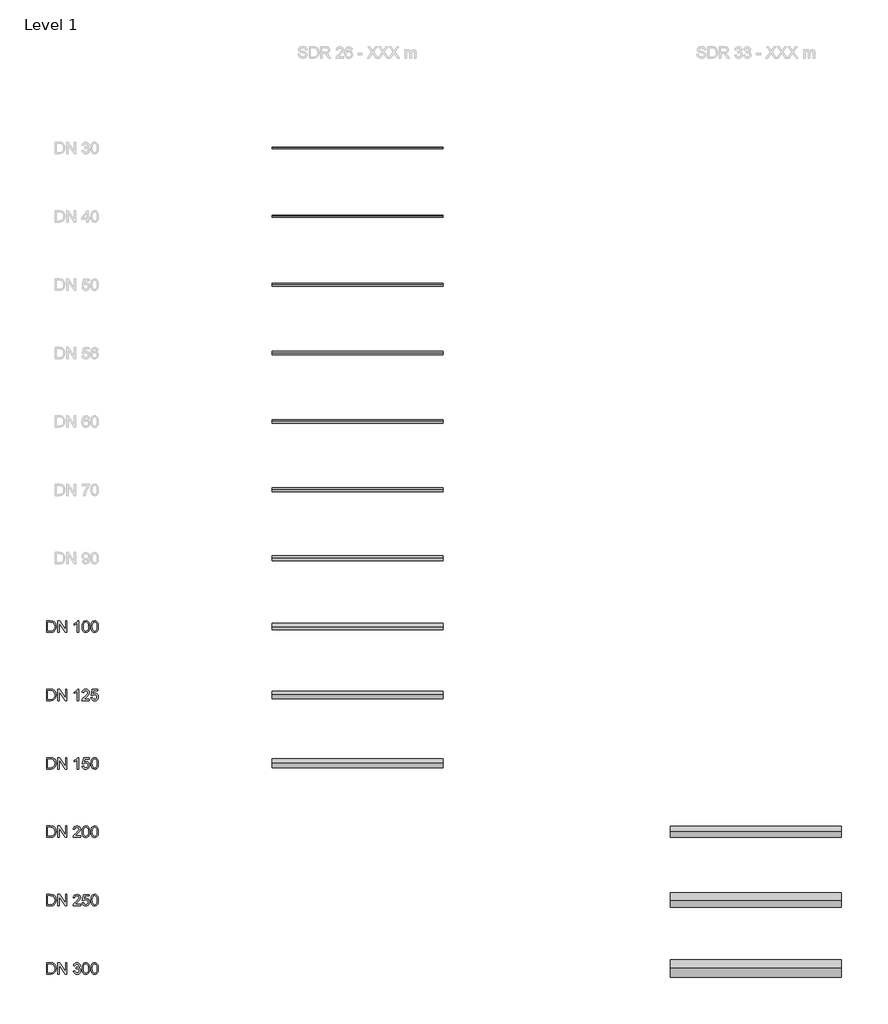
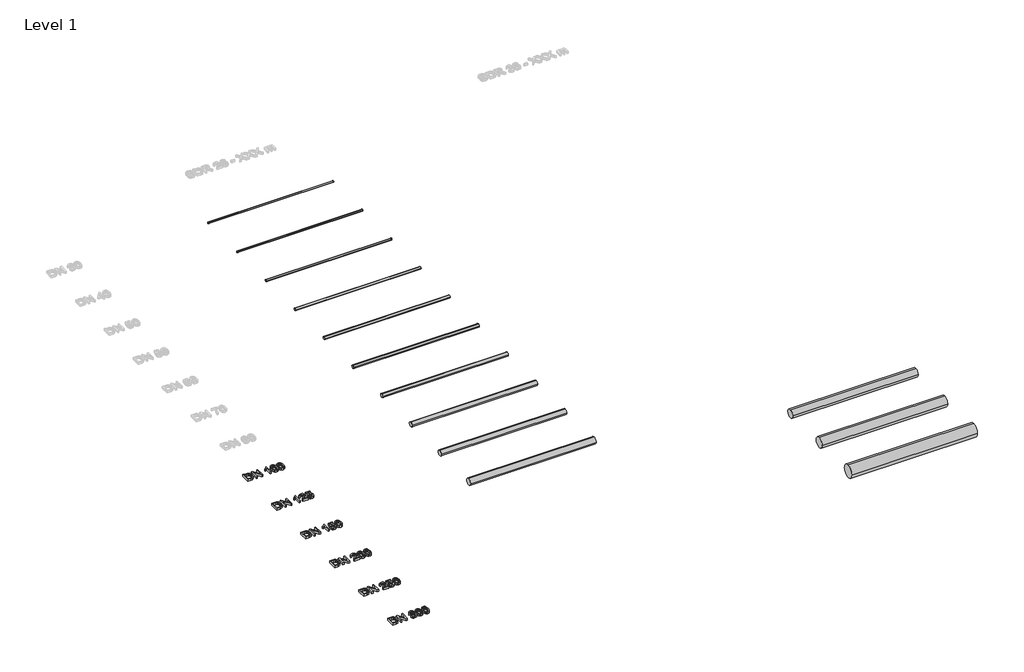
# One storey, part 1 of 4: 13 pipe segments, 6 proxies.
"""IFC4 building model written with IfcOpenShell, lengths in millimetres."""

from ifc_helpers import new_model, si_unit, point, frame, frame_2d, origin, origin_with_axes, place, context, project, spatial, polyline, circle_curve, trimmed, segment, composite_curve, outline, extrude, element, save

model = new_model("IFC4")

# Units and contexts
model_context = context("Model", 3, world=origin())
ifc_project = project(units=[si_unit("LENGTHUNIT", "METRE", prefix="MILLI")], contexts=[model_context])

# Site, building, storey
site = spatial("IfcSite", under=ifc_project)
building = spatial("IfcBuilding", under=site)
storey = spatial("IfcBuildingStorey", under=building, Name="Level 1", Elevation=0.0)

# Proxies
placement = place(None, origin())
element("IfcBuildingElementProxy", 1, Name="200mm Arial", ObjectType="200mm Arial", at=placement, inside=storey, context=model_context, shape_type="SweptSolid", body=[
    extrude(outline(polyline([(-19491.3116028, -7913.949573), (-19491.3116028, -7713.0369527), (-19422.0026349, -7713.0369527), (-19386.1464031, -7715.9309577), (-19370.1312736, -7721.5105013), (-19356.6177416, -7730.302881), (-19342.724065, -7745.606772), (-19332.8280393, -7764.6385338), (-19326.9051392, -7787.0302846), (-19324.9308391, -7812.4141423), (-19330.2773908, -7852.9547382), (-19344.0116519, -7882.2136195), (-19362.3567008, -7900.436041), (-19386.3671323, -7910.5160077), (-19418.6671715, -7913.949573), (-19491.3116028, -7913.949573)]), holes=[polyline([(-19466.1975253, -7888.8354954), (-19421.7573803, -7888.8354954), (-19389.4328156, -7885.2057264), (-19370.7934612, -7874.9540815), (-19362.0685265, -7864.0831685), (-19355.5140957, -7850.0116822), (-19351.4122114, -7832.6783089), (-19350.0449167, -7812.0217348), (-19352.7243239, -7784.6513144), (-19360.7625455, -7764.4423301), (-19372.6390025, -7750.5609162), (-19386.8331162, -7742.1732067), (-19422.4440933, -7738.1510302), (-19466.1975253, -7738.1510302), (-19466.1975253, -7888.8354954)])]), origin_with_axes(), (0.0, 0.0, 1.0), 50.0),
    extrude(outline(polyline([(-19290.3989825, -7913.949573), (-19290.3989825, -7713.0369527), (-19263.5190714, -7713.0369527), (-19158.5500754, -7872.2072292), (-19158.5500754, -7713.0369527), (-19133.4359979, -7713.0369527), (-19133.4359979, -7913.949573), (-19160.315909, -7913.949573), (-19265.284905, -7754.7302454), (-19265.284905, -7913.949573), (-19290.3989825, -7913.949573)])), origin_with_axes(), (0.0, 0.0, 1.0), 50.0),
    extrude(outline(polyline([(-18926.2448582, -7913.949573), (-18951.3589358, -7913.949573), (-18951.3589358, -7757.3789958), (-18975.1486381, -7774.3260931), (-19001.5870908, -7787.0057592), (-19001.5870908, -7763.2651077), (-18964.7743658, -7739.769711), (-18951.3037535, -7726.1948653), (-18942.431666, -7713.0369527), (-18926.2448582, -7713.0369527), (-18926.2448582, -7913.949573)])), origin_with_axes(), (0.0, 0.0, 1.0), 50.0),
    extrude(outline(polyline([(-18866.5989241, -7815.1119436), (-18864.7533827, -7782.9529258), (-18859.2167587, -7757.3054194), (-18850.0442343, -7737.7770168), (-18837.2909918, -7723.9753106), (-18820.8650607, -7715.7715422), (-18800.6744705, -7713.0369527), (-18785.1989013, -7714.6556334), (-18771.3420128, -7719.5116758), (-18759.7537299, -7727.4150073), (-18751.0839776, -7738.1755557), (-18739.3117537, -7767.9004209), (-18734.750017, -7815.1119436), (-18736.5771642, -7847.0870203), (-18742.058606, -7872.6732131), (-18751.1759481, -7892.2200098), (-18763.9107965, -7906.0768983), (-18780.3735158, -7914.335849), (-18800.6744705, -7917.0888326), (-18826.7695667, -7912.3063667), (-18846.5861435, -7897.9589689), (-18855.341735, -7882.8298218), (-18861.5957289, -7863.9789353), (-18866.5989241, -7815.1119436)]), holes=[polyline([(-18841.4848465, -7815.0628927), (-18838.5417906, -7854.5672876), (-18829.7126227, -7877.4311536), (-18816.5669727, -7888.3388547), (-18800.6744705, -7891.9747551), (-18784.7819683, -7888.326592), (-18771.6363184, -7877.3821026), (-18762.8071505, -7854.5059739), (-18759.8640945, -7815.0628927), (-18762.7090486, -7776.4475459), (-18771.2439109, -7753.4058703), (-18784.3650354, -7741.9647402), (-18800.9687761, -7738.1510302), (-18816.6896001, -7741.5110191), (-18829.3202152, -7751.5909857), (-18838.4436887, -7776.0674012), (-18841.4848465, -7815.0628927)])]), origin_with_axes(), (0.0, 0.0, 1.0), 50.0),
    extrude(outline(polyline([(-18712.7751992, -7815.1119436), (-18710.9296578, -7782.9529258), (-18705.3930338, -7757.3054194), (-18696.2205094, -7737.7770168), (-18683.4672669, -7723.9753106), (-18667.0413358, -7715.7715422), (-18646.8507456, -7713.0369527), (-18631.3751764, -7714.6556334), (-18617.5182879, -7719.5116758), (-18605.930005, -7727.4150073), (-18597.2602527, -7738.1755557), (-18585.4880288, -7767.9004209), (-18580.9262921, -7815.1119436), (-18582.7534393, -7847.0870203), (-18588.2348811, -7872.6732131), (-18597.3522232, -7892.2200098), (-18610.0870716, -7906.0768983), (-18626.5497909, -7914.335849), (-18646.8507456, -7917.0888326), (-18672.9458418, -7912.3063667), (-18692.7624186, -7897.9589689), (-18701.5180101, -7882.8298218), (-18707.772004, -7863.9789353), (-18712.7751992, -7815.1119436)]), holes=[polyline([(-18687.6611216, -7815.0628927), (-18684.7180657, -7854.5672876), (-18675.8888978, -7877.4311536), (-18662.7432478, -7888.3388547), (-18646.8507456, -7891.9747551), (-18630.9582434, -7888.326592), (-18617.8125935, -7877.3821026), (-18608.9834256, -7854.5059739), (-18606.0403696, -7815.0628927), (-18608.8853237, -7776.4475459), (-18617.420186, -7753.4058703), (-18630.5413105, -7741.9647402), (-18647.1450512, -7738.1510302), (-18662.8658751, -7741.5110191), (-18675.4964903, -7751.5909857), (-18684.6199638, -7776.0674012), (-18687.6611216, -7815.0628927)])]), origin_with_axes(), (0.0, 0.0, 1.0), 50.0),
])
element("IfcBuildingElementProxy", 2, Name="200mm Arial", ObjectType="200mm Arial", at=placement, inside=storey, context=model_context, shape_type="SweptSolid", body=[
    extrude(outline(polyline([(-19491.3116028, -9113.949573), (-19491.3116028, -8913.0369527), (-19422.0026349, -8913.0369527), (-19386.1464031, -8915.9309577), (-19370.1312736, -8921.5105013), (-19356.6177416, -8930.302881), (-19342.724065, -8945.606772), (-19332.8280393, -8964.6385338), (-19326.9051392, -8987.0302846), (-19324.9308391, -9012.4141423), (-19330.2773908, -9052.9547382), (-19344.0116519, -9082.2136195), (-19362.3567008, -9100.436041), (-19386.3671323, -9110.5160077), (-19418.6671715, -9113.949573), (-19491.3116028, -9113.949573)]), holes=[polyline([(-19466.1975253, -9088.8354954), (-19421.7573803, -9088.8354954), (-19389.4328156, -9085.2057264), (-19370.7934612, -9074.9540815), (-19362.0685265, -9064.0831685), (-19355.5140957, -9050.0116822), (-19351.4122114, -9032.6783089), (-19350.0449167, -9012.0217348), (-19352.7243239, -8984.6513144), (-19360.7625455, -8964.4423301), (-19372.6390025, -8950.5609162), (-19386.8331162, -8942.1732067), (-19422.4440933, -8938.1510302), (-19466.1975253, -8938.1510302), (-19466.1975253, -9088.8354954)])]), origin_with_axes(), (0.0, 0.0, 1.0), 50.0),
    extrude(outline(polyline([(-19290.3989825, -9113.949573), (-19290.3989825, -8913.0369527), (-19263.5190714, -8913.0369527), (-19158.5500754, -9072.2072292), (-19158.5500754, -8913.0369527), (-19133.4359979, -8913.0369527), (-19133.4359979, -9113.949573), (-19160.315909, -9113.949573), (-19265.284905, -8954.7302454), (-19265.284905, -9113.949573), (-19290.3989825, -9113.949573)])), origin_with_axes(), (0.0, 0.0, 1.0), 50.0),
    extrude(outline(polyline([(-18926.2448582, -9113.949573), (-18951.3589358, -9113.949573), (-18951.3589358, -8957.3789958), (-18975.1486381, -8974.3260931), (-19001.5870908, -8987.0057592), (-19001.5870908, -8963.2651077), (-18964.7743658, -8939.769711), (-18951.3037535, -8926.1948653), (-18942.431666, -8913.0369527), (-18926.2448582, -8913.0369527), (-18926.2448582, -9113.949573)])), origin_with_axes(), (0.0, 0.0, 1.0), 50.0),
    extrude(outline(polyline([(-18737.8892767, -9088.8354954), (-18737.8892767, -9113.949573), (-18869.7381838, -9113.949573), (-18867.0403825, -9096.6345937), (-18851.7855424, -9069.9754118), (-18820.3438945, -9040.8636832), (-18776.98287, -8999.0232377), (-18768.852678, -8984.6022634), (-18766.1426139, -8970.5736967), (-18768.6993938, -8957.9982638), (-18776.3697334, -8947.5442838), (-18788.1603513, -8940.4993436), (-18803.0779662, -8938.1510302), (-18818.7436079, -8940.4441613), (-18830.9143705, -8947.3235546), (-18838.7686511, -8958.2496499), (-18841.4848465, -8972.6828868), (-18866.5989241, -8969.5436271), (-18860.510477, -8945.2511527), (-18847.346433, -8927.5069778), (-18827.7935049, -8916.6544589), (-18802.538406, -8913.0369527), (-18777.099366, -8917.0591291), (-18757.5832262, -8929.1256586), (-18745.1672088, -8947.1518763), (-18741.0285364, -8969.0531178), (-18745.4921713, -8992.8673456), (-18760.3300784, -9017.4909138), (-18796.3089375, -9051.9001431), (-18825.1999369, -9076.0577275), (-18836.5307023, -9088.8354954), (-18737.8892767, -9088.8354954)])), origin_with_axes(), (0.0, 0.0, 1.0), 50.0),
    extrude(outline(polyline([(-18712.7751992, -9060.5821582), (-18687.6611216, -9057.4428985), (-18683.0503339, -9072.5199289), (-18675.005981, -9083.3172655), (-18663.5648509, -9089.8103827), (-18648.763732, -9091.9747551), (-18630.7620397, -9088.9642541), (-18617.2730332, -9079.9327511), (-18608.8485355, -9065.9225785), (-18606.0403696, -9047.9760685), (-18608.6707259, -9031.0780222), (-18616.5617947, -9018.1531014), (-18629.7748897, -9009.9493329), (-18648.3713245, -9007.2147434), (-18670.4197188, -9011.5802764), (-18684.5218619, -9022.9110419), (-18709.6359395, -9019.7717822), (-18687.6611216, -8916.1762123), (-18590.3440712, -8916.1762123), (-18590.3440712, -8941.2902899), (-18667.3540355, -8941.2902899), (-18678.0961897, -8996.619742), (-18660.1558111, -8985.7304349), (-18641.3570412, -8982.1006659), (-18617.8923012, -8986.601089), (-18598.4129496, -9000.1023582), (-18585.2979565, -9020.6792244), (-18580.9262921, -9046.4064386), (-18584.8626294, -9071.5205162), (-18596.6716415, -9093.0048247), (-18607.1072274, -9103.5415782), (-18619.2841214, -9111.0678307), (-18633.2023236, -9115.5835821), (-18648.8618339, -9117.0888326), (-18673.5283216, -9113.2199403), (-18693.1793515, -9101.6132634), (-18706.6499639, -9083.6177025), (-18712.7751992, -9060.5821582)])), origin_with_axes(), (0.0, 0.0, 1.0), 50.0),
])
element("IfcBuildingElementProxy", 3, Name="200mm Arial", ObjectType="200mm Arial", at=placement, inside=storey, context=model_context, shape_type="SweptSolid", body=[
    extrude(outline(polyline([(-19491.3116028, -10313.949573), (-19491.3116028, -10113.0369527), (-19422.0026349, -10113.0369527), (-19386.1464031, -10115.9309577), (-19370.1312736, -10121.5105013), (-19356.6177416, -10130.302881), (-19342.724065, -10145.606772), (-19332.8280393, -10164.6385338), (-19326.9051392, -10187.0302846), (-19324.9308391, -10212.4141423), (-19330.2773908, -10252.9547382), (-19344.0116519, -10282.2136195), (-19362.3567008, -10300.436041), (-19386.3671323, -10310.5160077), (-19418.6671715, -10313.949573), (-19491.3116028, -10313.949573)]), holes=[polyline([(-19466.1975253, -10288.8354954), (-19421.7573803, -10288.8354954), (-19389.4328156, -10285.2057264), (-19370.7934612, -10274.9540815), (-19362.0685265, -10264.0831685), (-19355.5140957, -10250.0116822), (-19351.4122114, -10232.6783089), (-19350.0449167, -10212.0217348), (-19352.7243239, -10184.6513144), (-19360.7625455, -10164.4423301), (-19372.6390025, -10150.5609162), (-19386.8331162, -10142.1732067), (-19422.4440933, -10138.1510302), (-19466.1975253, -10138.1510302), (-19466.1975253, -10288.8354954)])]), origin_with_axes(), (0.0, 0.0, 1.0), 50.0),
    extrude(outline(polyline([(-19290.3989825, -10313.949573), (-19290.3989825, -10113.0369527), (-19263.5190714, -10113.0369527), (-19158.5500754, -10272.2072292), (-19158.5500754, -10113.0369527), (-19133.4359979, -10113.0369527), (-19133.4359979, -10313.949573), (-19160.315909, -10313.949573), (-19265.284905, -10154.7302454), (-19265.284905, -10313.949573), (-19290.3989825, -10313.949573)])), origin_with_axes(), (0.0, 0.0, 1.0), 50.0),
    extrude(outline(polyline([(-18926.2448582, -10313.949573), (-18951.3589358, -10313.949573), (-18951.3589358, -10157.3789958), (-18975.1486381, -10174.3260931), (-19001.5870908, -10187.0057592), (-19001.5870908, -10163.2651077), (-18964.7743658, -10139.769711), (-18951.3037535, -10126.1948653), (-18942.431666, -10113.0369527), (-18926.2448582, -10113.0369527), (-18926.2448582, -10313.949573)])), origin_with_axes(), (0.0, 0.0, 1.0), 50.0),
    extrude(outline(polyline([(-18866.5989241, -10260.5821582), (-18841.4848465, -10257.4428985), (-18836.8740589, -10272.5199289), (-18828.8297059, -10283.3172655), (-18817.3885758, -10289.8103827), (-18802.5874569, -10291.9747551), (-18784.5857646, -10288.9642541), (-18771.0967581, -10279.9327511), (-18762.6722604, -10265.9225785), (-18759.8640945, -10247.9760685), (-18762.4944508, -10231.0780222), (-18770.3855196, -10218.1531014), (-18783.5986146, -10209.9493329), (-18802.1950494, -10207.2147434), (-18824.2434437, -10211.5802764), (-18838.3455868, -10222.9110419), (-18863.4596644, -10219.7717822), (-18841.4848465, -10116.1762123), (-18744.1677961, -10116.1762123), (-18744.1677961, -10141.2902899), (-18821.1777604, -10141.2902899), (-18831.9199147, -10196.619742), (-18813.979536, -10185.7304349), (-18795.1807661, -10182.1006659), (-18771.7160261, -10186.601089), (-18752.2366745, -10200.1023582), (-18739.1216814, -10220.6792244), (-18734.750017, -10246.4064386), (-18738.6863543, -10271.5205162), (-18750.4953664, -10293.0048247), (-18760.9309523, -10303.5415782), (-18773.1078464, -10311.0678307), (-18787.0260485, -10315.5835821), (-18802.6855588, -10317.0888326), (-18827.3520466, -10313.2199403), (-18847.0030765, -10301.6132634), (-18860.4736888, -10283.6177025), (-18866.5989241, -10260.5821582)])), origin_with_axes(), (0.0, 0.0, 1.0), 50.0),
    extrude(outline(polyline([(-18712.7751992, -10215.1119436), (-18710.9296578, -10182.9529258), (-18705.3930338, -10157.3054194), (-18696.2205094, -10137.7770168), (-18683.4672669, -10123.9753106), (-18667.0413358, -10115.7715422), (-18646.8507456, -10113.0369527), (-18631.3751764, -10114.6556334), (-18617.5182879, -10119.5116758), (-18605.930005, -10127.4150073), (-18597.2602527, -10138.1755557), (-18585.4880288, -10167.9004209), (-18580.9262921, -10215.1119436), (-18582.7534393, -10247.0870203), (-18588.2348811, -10272.6732131), (-18597.3522232, -10292.2200098), (-18610.0870716, -10306.0768983), (-18626.5497909, -10314.335849), (-18646.8507456, -10317.0888326), (-18672.9458418, -10312.3063667), (-18692.7624186, -10297.9589689), (-18701.5180101, -10282.8298218), (-18707.772004, -10263.9789353), (-18712.7751992, -10215.1119436)]), holes=[polyline([(-18687.6611216, -10215.0628927), (-18684.7180657, -10254.5672876), (-18675.8888978, -10277.4311536), (-18662.7432478, -10288.3388547), (-18646.8507456, -10291.9747551), (-18630.9582434, -10288.326592), (-18617.8125935, -10277.3821026), (-18608.9834256, -10254.5059739), (-18606.0403696, -10215.0628927), (-18608.8853237, -10176.4475459), (-18617.420186, -10153.4058703), (-18630.5413105, -10141.9647402), (-18647.1450512, -10138.1510302), (-18662.8658751, -10141.5110191), (-18675.4964903, -10151.5909857), (-18684.6199638, -10176.0674012), (-18687.6611216, -10215.0628927)])]), origin_with_axes(), (0.0, 0.0, 1.0), 50.0),
])
element("IfcBuildingElementProxy", 4, Name="200mm Arial", ObjectType="200mm Arial", at=placement, inside=storey, context=model_context, shape_type="SweptSolid", body=[
    extrude(outline(polyline([(-19491.3116028, -11513.949573), (-19491.3116028, -11313.0369527), (-19422.0026349, -11313.0369527), (-19386.1464031, -11315.9309577), (-19370.1312736, -11321.5105013), (-19356.6177416, -11330.302881), (-19342.724065, -11345.606772), (-19332.8280393, -11364.6385338), (-19326.9051392, -11387.0302846), (-19324.9308391, -11412.4141423), (-19330.2773908, -11452.9547382), (-19344.0116519, -11482.2136195), (-19362.3567008, -11500.436041), (-19386.3671323, -11510.5160077), (-19418.6671715, -11513.949573), (-19491.3116028, -11513.949573)]), holes=[polyline([(-19466.1975253, -11488.8354954), (-19421.7573803, -11488.8354954), (-19389.4328156, -11485.2057264), (-19370.7934612, -11474.9540815), (-19362.0685265, -11464.0831685), (-19355.5140957, -11450.0116822), (-19351.4122114, -11432.6783089), (-19350.0449167, -11412.0217348), (-19352.7243239, -11384.6513144), (-19360.7625455, -11364.4423301), (-19372.6390025, -11350.5609162), (-19386.8331162, -11342.1732067), (-19422.4440933, -11338.1510302), (-19466.1975253, -11338.1510302), (-19466.1975253, -11488.8354954)])]), origin_with_axes(), (0.0, 0.0, 1.0), 50.0),
    extrude(outline(polyline([(-19290.3989825, -11513.949573), (-19290.3989825, -11313.0369527), (-19263.5190714, -11313.0369527), (-19158.5500754, -11472.2072292), (-19158.5500754, -11313.0369527), (-19133.4359979, -11313.0369527), (-19133.4359979, -11513.949573), (-19160.315909, -11513.949573), (-19265.284905, -11354.7302454), (-19265.284905, -11513.949573), (-19290.3989825, -11513.949573)])), origin_with_axes(), (0.0, 0.0, 1.0), 50.0),
    extrude(outline(polyline([(-18891.7130016, -11488.8354954), (-18891.7130016, -11513.949573), (-19023.5619087, -11513.949573), (-19020.8641074, -11496.6345937), (-19005.6092673, -11469.9754118), (-18974.1676195, -11440.8636832), (-18930.806595, -11399.0232377), (-18922.6764029, -11384.6022634), (-18919.9663388, -11370.5736967), (-18922.5231187, -11357.9982638), (-18930.1934583, -11347.5442838), (-18941.9840762, -11340.4993436), (-18956.9016912, -11338.1510302), (-18972.5673328, -11340.4441613), (-18984.7380955, -11347.3235546), (-18992.5923761, -11358.2496499), (-18995.3085714, -11372.6828868), (-19020.422649, -11369.5436271), (-19014.334202, -11345.2511527), (-19001.1701579, -11327.5069778), (-18981.6172299, -11316.6544589), (-18956.3621309, -11313.0369527), (-18930.9230909, -11317.0591291), (-18911.4069511, -11329.1256586), (-18898.9909337, -11347.1518763), (-18894.8522613, -11369.0531178), (-18899.3158962, -11392.8673456), (-18914.1538033, -11417.4909138), (-18950.1326624, -11451.9001431), (-18979.0236618, -11476.0577275), (-18990.3544272, -11488.8354954), (-18891.7130016, -11488.8354954)])), origin_with_axes(), (0.0, 0.0, 1.0), 50.0),
    extrude(outline(polyline([(-18866.5989241, -11415.1119436), (-18864.7533827, -11382.9529258), (-18859.2167587, -11357.3054194), (-18850.0442343, -11337.7770168), (-18837.2909918, -11323.9753106), (-18820.8650607, -11315.7715422), (-18800.6744705, -11313.0369527), (-18785.1989013, -11314.6556334), (-18771.3420128, -11319.5116758), (-18759.7537299, -11327.4150073), (-18751.0839776, -11338.1755557), (-18739.3117537, -11367.9004209), (-18734.750017, -11415.1119436), (-18736.5771642, -11447.0870203), (-18742.058606, -11472.6732131), (-18751.1759481, -11492.2200098), (-18763.9107965, -11506.0768983), (-18780.3735158, -11514.335849), (-18800.6744705, -11517.0888326), (-18826.7695667, -11512.3063667), (-18846.5861435, -11497.9589689), (-18855.341735, -11482.8298218), (-18861.5957289, -11463.9789353), (-18866.5989241, -11415.1119436)]), holes=[polyline([(-18841.4848465, -11415.0628927), (-18838.5417906, -11454.5672876), (-18829.7126227, -11477.4311536), (-18816.5669727, -11488.3388547), (-18800.6744705, -11491.9747551), (-18784.7819683, -11488.326592), (-18771.6363184, -11477.3821026), (-18762.8071505, -11454.5059739), (-18759.8640945, -11415.0628927), (-18762.7090486, -11376.4475459), (-18771.2439109, -11353.4058703), (-18784.3650354, -11341.9647402), (-18800.9687761, -11338.1510302), (-18816.6896001, -11341.5110191), (-18829.3202152, -11351.5909857), (-18838.4436887, -11376.0674012), (-18841.4848465, -11415.0628927)])]), origin_with_axes(), (0.0, 0.0, 1.0), 50.0),
    extrude(outline(polyline([(-18712.7751992, -11415.1119436), (-18710.9296578, -11382.9529258), (-18705.3930338, -11357.3054194), (-18696.2205094, -11337.7770168), (-18683.4672669, -11323.9753106), (-18667.0413358, -11315.7715422), (-18646.8507456, -11313.0369527), (-18631.3751764, -11314.6556334), (-18617.5182879, -11319.5116758), (-18605.930005, -11327.4150073), (-18597.2602527, -11338.1755557), (-18585.4880288, -11367.9004209), (-18580.9262921, -11415.1119436), (-18582.7534393, -11447.0870203), (-18588.2348811, -11472.6732131), (-18597.3522232, -11492.2200098), (-18610.0870716, -11506.0768983), (-18626.5497909, -11514.335849), (-18646.8507456, -11517.0888326), (-18672.9458418, -11512.3063667), (-18692.7624186, -11497.9589689), (-18701.5180101, -11482.8298218), (-18707.772004, -11463.9789353), (-18712.7751992, -11415.1119436)]), holes=[polyline([(-18687.6611216, -11415.0628927), (-18684.7180657, -11454.5672876), (-18675.8888978, -11477.4311536), (-18662.7432478, -11488.3388547), (-18646.8507456, -11491.9747551), (-18630.9582434, -11488.326592), (-18617.8125935, -11477.3821026), (-18608.9834256, -11454.5059739), (-18606.0403696, -11415.0628927), (-18608.8853237, -11376.4475459), (-18617.420186, -11353.4058703), (-18630.5413105, -11341.9647402), (-18647.1450512, -11338.1510302), (-18662.8658751, -11341.5110191), (-18675.4964903, -11351.5909857), (-18684.6199638, -11376.0674012), (-18687.6611216, -11415.0628927)])]), origin_with_axes(), (0.0, 0.0, 1.0), 50.0),
])
element("IfcBuildingElementProxy", 5, Name="200mm Arial", ObjectType="200mm Arial", at=placement, inside=storey, context=model_context, shape_type="SweptSolid", body=[
    extrude(outline(polyline([(-19491.3116028, -12713.949573), (-19491.3116028, -12513.0369527), (-19422.0026349, -12513.0369527), (-19386.1464031, -12515.9309577), (-19370.1312736, -12521.5105013), (-19356.6177416, -12530.302881), (-19342.724065, -12545.606772), (-19332.8280393, -12564.6385338), (-19326.9051392, -12587.0302846), (-19324.9308391, -12612.4141423), (-19330.2773908, -12652.9547382), (-19344.0116519, -12682.2136195), (-19362.3567008, -12700.436041), (-19386.3671323, -12710.5160077), (-19418.6671715, -12713.949573), (-19491.3116028, -12713.949573)]), holes=[polyline([(-19466.1975253, -12688.8354954), (-19421.7573803, -12688.8354954), (-19389.4328156, -12685.2057264), (-19370.7934612, -12674.9540815), (-19362.0685265, -12664.0831685), (-19355.5140957, -12650.0116822), (-19351.4122114, -12632.6783089), (-19350.0449167, -12612.0217348), (-19352.7243239, -12584.6513144), (-19360.7625455, -12564.4423301), (-19372.6390025, -12550.5609162), (-19386.8331162, -12542.1732067), (-19422.4440933, -12538.1510302), (-19466.1975253, -12538.1510302), (-19466.1975253, -12688.8354954)])]), origin_with_axes(), (0.0, 0.0, 1.0), 50.0),
    extrude(outline(polyline([(-19290.3989825, -12713.949573), (-19290.3989825, -12513.0369527), (-19263.5190714, -12513.0369527), (-19158.5500754, -12672.2072292), (-19158.5500754, -12513.0369527), (-19133.4359979, -12513.0369527), (-19133.4359979, -12713.949573), (-19160.315909, -12713.949573), (-19265.284905, -12554.7302454), (-19265.284905, -12713.949573), (-19290.3989825, -12713.949573)])), origin_with_axes(), (0.0, 0.0, 1.0), 50.0),
    extrude(outline(polyline([(-18891.7130016, -12688.8354954), (-18891.7130016, -12713.949573), (-19023.5619087, -12713.949573), (-19020.8641074, -12696.6345937), (-19005.6092673, -12669.9754118), (-18974.1676195, -12640.8636832), (-18930.806595, -12599.0232377), (-18922.6764029, -12584.6022634), (-18919.9663388, -12570.5736967), (-18922.5231187, -12557.9982638), (-18930.1934583, -12547.5442838), (-18941.9840762, -12540.4993436), (-18956.9016912, -12538.1510302), (-18972.5673328, -12540.4441613), (-18984.7380955, -12547.3235546), (-18992.5923761, -12558.2496499), (-18995.3085714, -12572.6828868), (-19020.422649, -12569.5436271), (-19014.334202, -12545.2511527), (-19001.1701579, -12527.5069778), (-18981.6172299, -12516.6544589), (-18956.3621309, -12513.0369527), (-18930.9230909, -12517.0591291), (-18911.4069511, -12529.1256586), (-18898.9909337, -12547.1518763), (-18894.8522613, -12569.0531178), (-18899.3158962, -12592.8673456), (-18914.1538033, -12617.4909138), (-18950.1326624, -12651.9001431), (-18979.0236618, -12676.0577275), (-18990.3544272, -12688.8354954), (-18891.7130016, -12688.8354954)])), origin_with_axes(), (0.0, 0.0, 1.0), 50.0),
    extrude(outline(polyline([(-18866.5989241, -12660.5821582), (-18841.4848465, -12657.4428985), (-18836.8740589, -12672.5199289), (-18828.8297059, -12683.3172655), (-18817.3885758, -12689.8103827), (-18802.5874569, -12691.9747551), (-18784.5857646, -12688.9642541), (-18771.0967581, -12679.9327511), (-18762.6722604, -12665.9225785), (-18759.8640945, -12647.9760685), (-18762.4944508, -12631.0780222), (-18770.3855196, -12618.1531014), (-18783.5986146, -12609.9493329), (-18802.1950494, -12607.2147434), (-18824.2434437, -12611.5802764), (-18838.3455868, -12622.9110419), (-18863.4596644, -12619.7717822), (-18841.4848465, -12516.1762123), (-18744.1677961, -12516.1762123), (-18744.1677961, -12541.2902899), (-18821.1777604, -12541.2902899), (-18831.9199147, -12596.619742), (-18813.979536, -12585.7304349), (-18795.1807661, -12582.1006659), (-18771.7160261, -12586.601089), (-18752.2366745, -12600.1023582), (-18739.1216814, -12620.6792244), (-18734.750017, -12646.4064386), (-18738.6863543, -12671.5205162), (-18750.4953664, -12693.0048247), (-18760.9309523, -12703.5415782), (-18773.1078464, -12711.0678307), (-18787.0260485, -12715.5835821), (-18802.6855588, -12717.0888326), (-18827.3520466, -12713.2199403), (-18847.0030765, -12701.6132634), (-18860.4736888, -12683.6177025), (-18866.5989241, -12660.5821582)])), origin_with_axes(), (0.0, 0.0, 1.0), 50.0),
    extrude(outline(polyline([(-18712.7751992, -12615.1119436), (-18710.9296578, -12582.9529258), (-18705.3930338, -12557.3054194), (-18696.2205094, -12537.7770168), (-18683.4672669, -12523.9753106), (-18667.0413358, -12515.7715422), (-18646.8507456, -12513.0369527), (-18631.3751764, -12514.6556334), (-18617.5182879, -12519.5116758), (-18605.930005, -12527.4150073), (-18597.2602527, -12538.1755557), (-18585.4880288, -12567.9004209), (-18580.9262921, -12615.1119436), (-18582.7534393, -12647.0870203), (-18588.2348811, -12672.6732131), (-18597.3522232, -12692.2200098), (-18610.0870716, -12706.0768983), (-18626.5497909, -12714.335849), (-18646.8507456, -12717.0888326), (-18672.9458418, -12712.3063667), (-18692.7624186, -12697.9589689), (-18701.5180101, -12682.8298218), (-18707.772004, -12663.9789353), (-18712.7751992, -12615.1119436)]), holes=[polyline([(-18687.6611216, -12615.0628927), (-18684.7180657, -12654.5672876), (-18675.8888978, -12677.4311536), (-18662.7432478, -12688.3388547), (-18646.8507456, -12691.9747551), (-18630.9582434, -12688.326592), (-18617.8125935, -12677.3821026), (-18608.9834256, -12654.5059739), (-18606.0403696, -12615.0628927), (-18608.8853237, -12576.4475459), (-18617.420186, -12553.4058703), (-18630.5413105, -12541.9647402), (-18647.1450512, -12538.1510302), (-18662.8658751, -12541.5110191), (-18675.4964903, -12551.5909857), (-18684.6199638, -12576.0674012), (-18687.6611216, -12615.0628927)])]), origin_with_axes(), (0.0, 0.0, 1.0), 50.0),
])
element("IfcBuildingElementProxy", 6, Name="200mm Arial", ObjectType="200mm Arial", at=placement, inside=storey, context=model_context, shape_type="SweptSolid", body=[
    extrude(outline(polyline([(-19491.3116028, -13913.949573), (-19491.3116028, -13713.0369527), (-19422.0026349, -13713.0369527), (-19386.1464031, -13715.9309577), (-19370.1312736, -13721.5105013), (-19356.6177416, -13730.302881), (-19342.724065, -13745.606772), (-19332.8280393, -13764.6385338), (-19326.9051392, -13787.0302846), (-19324.9308391, -13812.4141423), (-19330.2773908, -13852.9547382), (-19344.0116519, -13882.2136195), (-19362.3567008, -13900.436041), (-19386.3671323, -13910.5160077), (-19418.6671715, -13913.949573), (-19491.3116028, -13913.949573)]), holes=[polyline([(-19466.1975253, -13888.8354954), (-19421.7573803, -13888.8354954), (-19389.4328156, -13885.2057264), (-19370.7934612, -13874.9540815), (-19362.0685265, -13864.0831685), (-19355.5140957, -13850.0116822), (-19351.4122114, -13832.6783089), (-19350.0449167, -13812.0217348), (-19352.7243239, -13784.6513144), (-19360.7625455, -13764.4423301), (-19372.6390025, -13750.5609162), (-19386.8331162, -13742.1732067), (-19422.4440933, -13738.1510302), (-19466.1975253, -13738.1510302), (-19466.1975253, -13888.8354954)])]), origin_with_axes(), (0.0, 0.0, 1.0), 50.0),
    extrude(outline(polyline([(-19290.3989825, -13913.949573), (-19290.3989825, -13713.0369527), (-19263.5190714, -13713.0369527), (-19158.5500754, -13872.2072292), (-19158.5500754, -13713.0369527), (-19133.4359979, -13713.0369527), (-19133.4359979, -13913.949573), (-19160.315909, -13913.949573), (-19265.284905, -13754.7302454), (-19265.284905, -13913.949573), (-19290.3989825, -13913.949573)])), origin_with_axes(), (0.0, 0.0, 1.0), 50.0),
    extrude(outline(polyline([(-19020.422649, -13860.5821582), (-18995.3085714, -13857.4428985), (-18989.6861083, -13873.2250361), (-18981.451683, -13883.8813512), (-18970.2006253, -13889.9514041), (-18955.528265, -13891.9747551), (-18938.3113877, -13889.1911147), (-18925.0185849, -13880.8401934), (-18916.5205108, -13868.3812565), (-18913.6878195, -13853.2735692), (-18916.4959853, -13838.9323028), (-18924.920483, -13827.3011004), (-18937.6737255, -13819.5939726), (-18953.4681259, -13817.02493), (-18971.0774107, -13819.7717822), (-18968.2815075, -13794.6577047), (-18964.2593311, -13794.9520102), (-18949.2129575, -13793.1493885), (-18935.7607392, -13787.7415231), (-18926.2693837, -13778.5935242), (-18923.1055985, -13765.5705016), (-18925.3987296, -13754.7241141), (-18932.2781229, -13745.925603), (-18942.7750225, -13740.0946734), (-18955.9206725, -13738.1510302), (-18969.0908479, -13740.1130675), (-18979.8575277, -13745.9991794), (-18987.7179396, -13755.809366), (-18992.1693118, -13769.5436271), (-19017.2833893, -13766.4043674), (-19009.8889612, -13743.8532011), (-18996.7310485, -13727.0164685), (-18978.7293562, -13716.5318316), (-18956.8035893, -13713.0369527), (-18941.0153203, -13714.7598667), (-18926.5146384, -13719.9286087), (-18914.2886934, -13728.0833263), (-18905.3246354, -13738.7641669), (-18899.8247996, -13751.0698196), (-18897.991521, -13764.0989736), (-18899.7328291, -13776.2390794), (-18904.9567534, -13787.2510138), (-18913.5897176, -13796.6320047), (-18925.5581452, -13803.87928), (-18909.8373212, -13810.2313758), (-18898.1877247, -13821.0471064), (-18890.9772376, -13835.7378608), (-18888.5737419, -13853.7150276), (-18893.3807333, -13878.191443), (-18907.8017075, -13898.645682), (-18929.5680589, -13912.478045), (-18956.4111818, -13917.0888326), (-18980.6913935, -13913.1524953), (-19000.4589194, -13901.3434833), (-19014.2054433, -13883.2804773), (-19020.422649, -13860.5821582)])), origin_with_axes(), (0.0, 0.0, 1.0), 50.0),
    extrude(outline(polyline([(-18866.5989241, -13815.1119436), (-18864.7533827, -13782.9529258), (-18859.2167587, -13757.3054194), (-18850.0442343, -13737.7770168), (-18837.2909918, -13723.9753106), (-18820.8650607, -13715.7715422), (-18800.6744705, -13713.0369527), (-18785.1989013, -13714.6556334), (-18771.3420128, -13719.5116758), (-18759.7537299, -13727.4150073), (-18751.0839776, -13738.1755557), (-18739.3117537, -13767.9004209), (-18734.750017, -13815.1119436), (-18736.5771642, -13847.0870203), (-18742.058606, -13872.6732131), (-18751.1759481, -13892.2200098), (-18763.9107965, -13906.0768983), (-18780.3735158, -13914.335849), (-18800.6744705, -13917.0888326), (-18826.7695667, -13912.3063667), (-18846.5861435, -13897.9589689), (-18855.341735, -13882.8298218), (-18861.5957289, -13863.9789353), (-18866.5989241, -13815.1119436)]), holes=[polyline([(-18841.4848465, -13815.0628927), (-18838.5417906, -13854.5672876), (-18829.7126227, -13877.4311536), (-18816.5669727, -13888.3388547), (-18800.6744705, -13891.9747551), (-18784.7819683, -13888.326592), (-18771.6363184, -13877.3821026), (-18762.8071505, -13854.5059739), (-18759.8640945, -13815.0628927), (-18762.7090486, -13776.4475459), (-18771.2439109, -13753.4058703), (-18784.3650354, -13741.9647402), (-18800.9687761, -13738.1510302), (-18816.6896001, -13741.5110191), (-18829.3202152, -13751.5909857), (-18838.4436887, -13776.0674012), (-18841.4848465, -13815.0628927)])]), origin_with_axes(), (0.0, 0.0, 1.0), 50.0),
    extrude(outline(polyline([(-18712.7751992, -13815.1119436), (-18710.9296578, -13782.9529258), (-18705.3930338, -13757.3054194), (-18696.2205094, -13737.7770168), (-18683.4672669, -13723.9753106), (-18667.0413358, -13715.7715422), (-18646.8507456, -13713.0369527), (-18631.3751764, -13714.6556334), (-18617.5182879, -13719.5116758), (-18605.930005, -13727.4150073), (-18597.2602527, -13738.1755557), (-18585.4880288, -13767.9004209), (-18580.9262921, -13815.1119436), (-18582.7534393, -13847.0870203), (-18588.2348811, -13872.6732131), (-18597.3522232, -13892.2200098), (-18610.0870716, -13906.0768983), (-18626.5497909, -13914.335849), (-18646.8507456, -13917.0888326), (-18672.9458418, -13912.3063667), (-18692.7624186, -13897.9589689), (-18701.5180101, -13882.8298218), (-18707.772004, -13863.9789353), (-18712.7751992, -13815.1119436)]), holes=[polyline([(-18687.6611216, -13815.0628927), (-18684.7180657, -13854.5672876), (-18675.8888978, -13877.4311536), (-18662.7432478, -13888.3388547), (-18646.8507456, -13891.9747551), (-18630.9582434, -13888.326592), (-18617.8125935, -13877.3821026), (-18608.9834256, -13854.5059739), (-18606.0403696, -13815.0628927), (-18608.8853237, -13776.4475459), (-18617.420186, -13753.4058703), (-18630.5413105, -13741.9647402), (-18647.1450512, -13738.1510302), (-18662.8658751, -13741.5110191), (-18675.4964903, -13751.5909857), (-18684.6199638, -13776.0674012), (-18687.6611216, -13815.0628927)])]), origin_with_axes(), (0.0, 0.0, 1.0), 50.0),
])

# Pipe segments
element("IfcPipeSegment", 7, ObjectType="Pipelife PEHD, SDR 26", at=placement, inside=storey, context=model_context, shape_type="SweptSolid", body=[
    extrude(outline(composite_curve([segment(trimmed(circle_curve(frame_2d((586.050427, 0.0)), 16.0), [point((570.050427, 0.0))], [point((586.050427, 16.0))], False, "CARTESIAN"), True, "CONTINUOUS"), segment(trimmed(circle_curve(frame_2d((586.050427, 0.0)), 16.0), [point((586.050427, 16.0))], [point((602.050427, 0.0))], False, "CARTESIAN"), True, "CONTINUOUS"), segment(trimmed(circle_curve(frame_2d((586.050427, 0.0)), 16.0), [point((602.050427, 0.0))], [point((586.050427, -16.0))], False, "CARTESIAN"), True, "CONTINUOUS"), segment(trimmed(circle_curve(frame_2d((586.050427, 0.0)), 16.0), [point((586.050427, -16.0))], [point((570.050427, 0.0))], False, "CARTESIAN"), True, "CONTINUOUS")], self_intersect=False)), frame((-15532.6671252, 0.0, 0.0), z_axis=(1.0, 0.0, 0.0), x_axis=(0.0, 1.0, 0.0)), (0.0, 0.0, 1.0), 3000.0),
])
element("IfcPipeSegment", 8, ObjectType="Pipelife PEHD, SDR 26", at=placement, inside=storey, context=model_context, shape_type="SweptSolid", body=[
    extrude(outline(composite_curve([segment(trimmed(circle_curve(frame_2d((-613.949573, 0.0)), 20.0), [point((-633.949573, 0.0))], [point((-613.949573, 20.0))], False, "CARTESIAN"), True, "CONTINUOUS"), segment(trimmed(circle_curve(frame_2d((-613.949573, 0.0)), 20.0), [point((-613.949573, 20.0))], [point((-593.949573, 0.0))], False, "CARTESIAN"), True, "CONTINUOUS"), segment(trimmed(circle_curve(frame_2d((-613.949573, 0.0)), 20.0), [point((-593.949573, 0.0))], [point((-613.949573, -20.0))], False, "CARTESIAN"), True, "CONTINUOUS"), segment(trimmed(circle_curve(frame_2d((-613.949573, 0.0)), 20.0), [point((-613.949573, -20.0))], [point((-633.949573, 0.0))], False, "CARTESIAN"), True, "CONTINUOUS")], self_intersect=False)), frame((-15532.6671252, 0.0, 0.0), z_axis=(1.0, 0.0, 0.0), x_axis=(0.0, 1.0, 0.0)), (0.0, 0.0, 1.0), 3000.0),
])
element("IfcPipeSegment", 9, ObjectType="Pipelife PEHD, SDR 26", at=placement, inside=storey, context=model_context, shape_type="SweptSolid", body=[
    extrude(outline(composite_curve([segment(trimmed(circle_curve(frame_2d((-1813.949573, 0.0)), 25.0), [point((-1838.949573, 0.0))], [point((-1813.949573, 25.0))], False, "CARTESIAN"), True, "CONTINUOUS"), segment(trimmed(circle_curve(frame_2d((-1813.949573, 0.0)), 25.0), [point((-1813.949573, 25.0))], [point((-1788.949573, 0.0))], False, "CARTESIAN"), True, "CONTINUOUS"), segment(trimmed(circle_curve(frame_2d((-1813.949573, 0.0)), 25.0), [point((-1788.949573, 0.0))], [point((-1813.949573, -25.0))], False, "CARTESIAN"), True, "CONTINUOUS"), segment(trimmed(circle_curve(frame_2d((-1813.949573, 0.0)), 25.0), [point((-1813.949573, -25.0))], [point((-1838.949573, 0.0))], False, "CARTESIAN"), True, "CONTINUOUS")], self_intersect=False)), frame((-15532.6671252, 0.0, 0.0), z_axis=(1.0, 0.0, 0.0), x_axis=(0.0, 1.0, 0.0)), (0.0, 0.0, 1.0), 3000.0),
])
element("IfcPipeSegment", 10, ObjectType="Pipelife PEHD, SDR 26", at=placement, inside=storey, context=model_context, shape_type="SweptSolid", body=[
    extrude(outline(composite_curve([segment(trimmed(circle_curve(frame_2d((-3013.949573, 0.0)), 28.0), [point((-3041.949573, 0.0))], [point((-3013.949573, 28.0))], False, "CARTESIAN"), True, "CONTINUOUS"), segment(trimmed(circle_curve(frame_2d((-3013.949573, 0.0)), 28.0), [point((-3013.949573, 28.0))], [point((-2985.949573, 0.0))], False, "CARTESIAN"), True, "CONTINUOUS"), segment(trimmed(circle_curve(frame_2d((-3013.949573, 0.0)), 28.0), [point((-2985.949573, 0.0))], [point((-3013.949573, -28.0))], False, "CARTESIAN"), True, "CONTINUOUS"), segment(trimmed(circle_curve(frame_2d((-3013.949573, 0.0)), 28.0), [point((-3013.949573, -28.0))], [point((-3041.949573, 0.0))], False, "CARTESIAN"), True, "CONTINUOUS")], self_intersect=False)), frame((-15532.6671252, 0.0, 0.0), z_axis=(1.0, 0.0, 0.0), x_axis=(0.0, 1.0, 0.0)), (0.0, 0.0, 1.0), 3000.0),
])
element("IfcPipeSegment", 11, ObjectType="Pipelife PEHD, SDR 26", at=placement, inside=storey, context=model_context, shape_type="SweptSolid", body=[
    extrude(outline(composite_curve([segment(trimmed(circle_curve(frame_2d((-4213.949573, 0.0)), 31.5), [point((-4245.449573, 0.0))], [point((-4213.949573, 31.5))], False, "CARTESIAN"), True, "CONTINUOUS"), segment(trimmed(circle_curve(frame_2d((-4213.949573, 0.0)), 31.5), [point((-4213.949573, 31.5))], [point((-4182.449573, 0.0))], False, "CARTESIAN"), True, "CONTINUOUS"), segment(trimmed(circle_curve(frame_2d((-4213.949573, 0.0)), 31.5), [point((-4182.449573, 0.0))], [point((-4213.949573, -31.5))], False, "CARTESIAN"), True, "CONTINUOUS"), segment(trimmed(circle_curve(frame_2d((-4213.949573, 0.0)), 31.5), [point((-4213.949573, -31.5))], [point((-4245.449573, 0.0))], False, "CARTESIAN"), True, "CONTINUOUS")], self_intersect=False)), frame((-15532.6671252, 0.0, 0.0), z_axis=(1.0, 0.0, 0.0), x_axis=(0.0, 1.0, 0.0)), (0.0, 0.0, 1.0), 3000.0),
])
element("IfcPipeSegment", 12, ObjectType="Pipelife PEHD, SDR 26", at=placement, inside=storey, context=model_context, shape_type="SweptSolid", body=[
    extrude(outline(composite_curve([segment(trimmed(circle_curve(frame_2d((-5413.949573, 0.0)), 37.5), [point((-5451.449573, 0.0))], [point((-5413.949573, 37.5))], False, "CARTESIAN"), True, "CONTINUOUS"), segment(trimmed(circle_curve(frame_2d((-5413.949573, 0.0)), 37.5), [point((-5413.949573, 37.5))], [point((-5376.449573, 0.0))], False, "CARTESIAN"), True, "CONTINUOUS"), segment(trimmed(circle_curve(frame_2d((-5413.949573, 0.0)), 37.5), [point((-5376.449573, 0.0))], [point((-5413.949573, -37.5))], False, "CARTESIAN"), True, "CONTINUOUS"), segment(trimmed(circle_curve(frame_2d((-5413.949573, 0.0)), 37.5), [point((-5413.949573, -37.5))], [point((-5451.449573, 0.0))], False, "CARTESIAN"), True, "CONTINUOUS")], self_intersect=False)), frame((-15532.6671252, 0.0, 0.0), z_axis=(1.0, 0.0, 0.0), x_axis=(0.0, 1.0, 0.0)), (0.0, 0.0, 1.0), 3000.0),
])
element("IfcPipeSegment", 13, ObjectType="Pipelife PEHD, SDR 26", at=placement, inside=storey, context=model_context, shape_type="SweptSolid", body=[
    extrude(outline(composite_curve([segment(trimmed(circle_curve(frame_2d((-6613.949573, 0.0)), 45.0), [point((-6658.949573, 0.0))], [point((-6613.949573, 45.0))], False, "CARTESIAN"), True, "CONTINUOUS"), segment(trimmed(circle_curve(frame_2d((-6613.949573, 0.0)), 45.0), [point((-6613.949573, 45.0))], [point((-6568.949573, 0.0))], False, "CARTESIAN"), True, "CONTINUOUS"), segment(trimmed(circle_curve(frame_2d((-6613.949573, 0.0)), 45.0), [point((-6568.949573, 0.0))], [point((-6613.949573, -45.0))], False, "CARTESIAN"), True, "CONTINUOUS"), segment(trimmed(circle_curve(frame_2d((-6613.949573, 0.0)), 45.0), [point((-6613.949573, -45.0))], [point((-6658.949573, 0.0))], False, "CARTESIAN"), True, "CONTINUOUS")], self_intersect=False)), frame((-15532.6671252, 0.0, 0.0), z_axis=(1.0, 0.0, 0.0), x_axis=(0.0, 1.0, 0.0)), (0.0, 0.0, 1.0), 3000.0),
])
element("IfcPipeSegment", 14, ObjectType="Pipelife PEHD, SDR 26", at=placement, inside=storey, context=model_context, shape_type="SweptSolid", body=[
    extrude(outline(composite_curve([segment(trimmed(circle_curve(frame_2d((-7813.949573, 0.0)), 55.0), [point((-7868.949573, 0.0))], [point((-7813.949573, 55.0))], False, "CARTESIAN"), True, "CONTINUOUS"), segment(trimmed(circle_curve(frame_2d((-7813.949573, 0.0)), 55.0), [point((-7813.949573, 55.0))], [point((-7758.949573, 0.0))], False, "CARTESIAN"), True, "CONTINUOUS"), segment(trimmed(circle_curve(frame_2d((-7813.949573, 0.0)), 55.0), [point((-7758.949573, 0.0))], [point((-7813.949573, -55.0))], False, "CARTESIAN"), True, "CONTINUOUS"), segment(trimmed(circle_curve(frame_2d((-7813.949573, 0.0)), 55.0), [point((-7813.949573, -55.0))], [point((-7868.949573, 0.0))], False, "CARTESIAN"), True, "CONTINUOUS")], self_intersect=False)), frame((-15532.6671252, 0.0, 0.0), z_axis=(1.0, 0.0, 0.0), x_axis=(0.0, 1.0, 0.0)), (0.0, 0.0, 1.0), 3000.0),
])
element("IfcPipeSegment", 15, ObjectType="Pipelife PEHD, SDR 26", at=placement, inside=storey, context=model_context, shape_type="SweptSolid", body=[
    extrude(outline(composite_curve([segment(trimmed(circle_curve(frame_2d((-9013.949573, 0.0)), 62.5), [point((-9076.449573, 0.0))], [point((-9013.949573, 62.5))], False, "CARTESIAN"), True, "CONTINUOUS"), segment(trimmed(circle_curve(frame_2d((-9013.949573, 0.0)), 62.5), [point((-9013.949573, 62.5))], [point((-8951.449573, 0.0))], False, "CARTESIAN"), True, "CONTINUOUS"), segment(trimmed(circle_curve(frame_2d((-9013.949573, 0.0)), 62.5), [point((-8951.449573, 0.0))], [point((-9013.949573, -62.5))], False, "CARTESIAN"), True, "CONTINUOUS"), segment(trimmed(circle_curve(frame_2d((-9013.949573, 0.0)), 62.5), [point((-9013.949573, -62.5))], [point((-9076.449573, 0.0))], False, "CARTESIAN"), True, "CONTINUOUS")], self_intersect=False)), frame((-15532.6671252, 0.0, 0.0), z_axis=(1.0, 0.0, 0.0), x_axis=(0.0, 1.0, 0.0)), (0.0, 0.0, 1.0), 3000.0),
])
element("IfcPipeSegment", 16, ObjectType="Pipelife PEHD, SDR 26", at=placement, inside=storey, context=model_context, shape_type="SweptSolid", body=[
    extrude(outline(composite_curve([segment(trimmed(circle_curve(frame_2d((-10213.949573, 0.0)), 80.0), [point((-10293.949573, 0.0))], [point((-10213.949573, 80.0))], False, "CARTESIAN"), True, "CONTINUOUS"), segment(trimmed(circle_curve(frame_2d((-10213.949573, 0.0)), 80.0), [point((-10213.949573, 80.0))], [point((-10133.949573, 0.0))], False, "CARTESIAN"), True, "CONTINUOUS"), segment(trimmed(circle_curve(frame_2d((-10213.949573, 0.0)), 80.0), [point((-10133.949573, 0.0))], [point((-10213.949573, -80.0))], False, "CARTESIAN"), True, "CONTINUOUS"), segment(trimmed(circle_curve(frame_2d((-10213.949573, 0.0)), 80.0), [point((-10213.949573, -80.0))], [point((-10293.949573, 0.0))], False, "CARTESIAN"), True, "CONTINUOUS")], self_intersect=False)), frame((-15532.6671252, 0.0, 0.0), z_axis=(1.0, 0.0, 0.0), x_axis=(0.0, 1.0, 0.0)), (0.0, 0.0, 1.0), 3000.0),
])
element("IfcPipeSegment", 17, ObjectType="Pipelife PEHD, SDR 33", at=placement, inside=storey, context=model_context, shape_type="SweptSolid", body=[
    extrude(outline(composite_curve([segment(trimmed(circle_curve(frame_2d((-11413.949573, 0.0)), 100.0), [point((-11513.949573, 0.0))], [point((-11413.949573, 100.0))], False, "CARTESIAN"), True, "CONTINUOUS"), segment(trimmed(circle_curve(frame_2d((-11413.949573, 0.0)), 100.0), [point((-11413.949573, 100.0))], [point((-11313.949573, 0.0))], False, "CARTESIAN"), True, "CONTINUOUS"), segment(trimmed(circle_curve(frame_2d((-11413.949573, 0.0)), 100.0), [point((-11313.949573, 0.0))], [point((-11413.949573, -100.0))], False, "CARTESIAN"), True, "CONTINUOUS"), segment(trimmed(circle_curve(frame_2d((-11413.949573, 0.0)), 100.0), [point((-11413.949573, -100.0))], [point((-11513.949573, 0.0))], False, "CARTESIAN"), True, "CONTINUOUS")], self_intersect=False)), frame((-8532.6671252, 0.0, 0.0), z_axis=(1.0, 0.0, 0.0), x_axis=(0.0, 1.0, 0.0)), (0.0, 0.0, 1.0), 3000.0),
])
element("IfcPipeSegment", 18, ObjectType="Pipelife PEHD, SDR 33", at=placement, inside=storey, context=model_context, shape_type="SweptSolid", body=[
    extrude(outline(composite_curve([segment(trimmed(circle_curve(frame_2d((-12613.949573, 0.0)), 125.0), [point((-12738.949573, 0.0))], [point((-12613.949573, 125.0))], False, "CARTESIAN"), True, "CONTINUOUS"), segment(trimmed(circle_curve(frame_2d((-12613.949573, 0.0)), 125.0), [point((-12613.949573, 125.0))], [point((-12488.949573, 0.0))], False, "CARTESIAN"), True, "CONTINUOUS"), segment(trimmed(circle_curve(frame_2d((-12613.949573, 0.0)), 125.0), [point((-12488.949573, 0.0))], [point((-12613.949573, -125.0))], False, "CARTESIAN"), True, "CONTINUOUS"), segment(trimmed(circle_curve(frame_2d((-12613.949573, 0.0)), 125.0), [point((-12613.949573, -125.0))], [point((-12738.949573, 0.0))], False, "CARTESIAN"), True, "CONTINUOUS")], self_intersect=False)), frame((-8532.6671252, 0.0, 0.0), z_axis=(1.0, 0.0, 0.0), x_axis=(0.0, 1.0, 0.0)), (0.0, 0.0, 1.0), 3000.0),
])
element("IfcPipeSegment", 19, ObjectType="Pipelife PEHD, SDR 33", at=placement, inside=storey, context=model_context, shape_type="SweptSolid", body=[
    extrude(outline(composite_curve([segment(trimmed(circle_curve(frame_2d((-13813.949573, 0.0)), 157.5), [point((-13971.449573, 0.0))], [point((-13813.949573, 157.5))], False, "CARTESIAN"), True, "CONTINUOUS"), segment(trimmed(circle_curve(frame_2d((-13813.949573, 0.0)), 157.5), [point((-13813.949573, 157.5))], [point((-13656.449573, 0.0))], False, "CARTESIAN"), True, "CONTINUOUS"), segment(trimmed(circle_curve(frame_2d((-13813.949573, 0.0)), 157.5), [point((-13656.449573, 0.0))], [point((-13813.949573, -157.5))], False, "CARTESIAN"), True, "CONTINUOUS"), segment(trimmed(circle_curve(frame_2d((-13813.949573, 0.0)), 157.5), [point((-13813.949573, -157.5))], [point((-13971.449573, 0.0))], False, "CARTESIAN"), True, "CONTINUOUS")], self_intersect=False)), frame((-8532.6671252, 0.0, 0.0), z_axis=(1.0, 0.0, 0.0), x_axis=(0.0, 1.0, 0.0)), (0.0, 0.0, 1.0), 3000.0),
])

save(model, "model.ifc")
